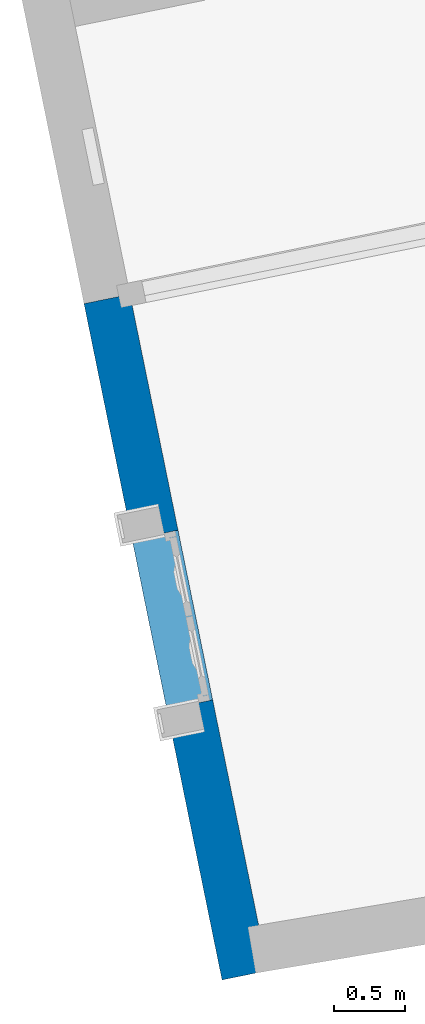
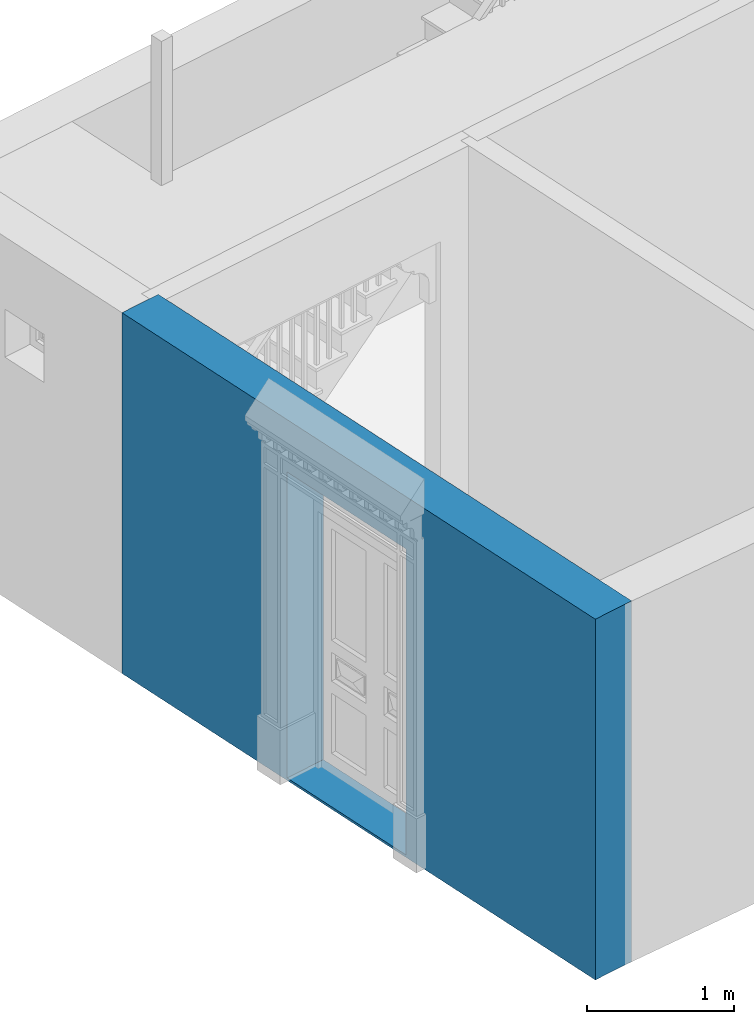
# One storey, part 2 of 11: 1 wall, 1 opening.
"""IFC4 building model written with IfcOpenShell, lengths in metres."""

import ifcopenshell
import ifcopenshell.guid

model = None  # the IFC model being written
_history = None  # IfcOwnerHistory: only IFC2X3 demands one
_inside = {}  # id of a spatial element -> (the spatial element, [elements in it])
_under = {}  # id of a project, library or spatial element -> (it, [spatial elements below it])
_declared = {}  # id of a project -> (the project, [libraries it declares])
_typed = {}  # id of a type object -> (the type object, [elements of that type])
_made_of = {}  # id of a material, layer set ... -> (it, [elements and type objects made of it])


def new_model(schema):
    """Start an empty IFC model of exactly this schema.

    Asked for "IFC4X3", IfcOpenShell would pick the latest addendum, in which some entities
    have other attributes; the version numbers below select the first issue.
    IFC2X3 requires an IfcOwnerHistory on every rooted entity: one is made here for all.
    """
    global model, _history
    if schema == "IFC4X3":
        model = ifcopenshell.file(schema_version=(4, 3, 0, 0))
    else:
        model = ifcopenshell.file(schema=schema)
    _inside.clear()
    _under.clear()
    _declared.clear()
    _typed.clear()
    _made_of.clear()
    _history = None
    if model.schema == "IFC2X3":
        org = make("IfcOrganization", Name="unknown")
        user = make(
            "IfcPersonAndOrganization",
            ThePerson=make("IfcPerson", FamilyName="unknown"),
            TheOrganization=org,
        )
        app = make(
            "IfcApplication",
            ApplicationDeveloper=org,
            Version="unknown",
            ApplicationFullName="unknown",
            ApplicationIdentifier="unknown",
        )
        _history = make(
            "IfcOwnerHistory",
            OwningUser=user,
            OwningApplication=app,
            ChangeAction="ADDED",
            CreationDate=0,
        )
    return model


def make(cls, **values):
    """One entity of the class cls with the attributes given. An attribute that is None is left unset."""
    return model.create_entity(
        cls, **{name: value for name, value in values.items() if value is not None}
    )


def rooted(cls, **values):
    """An entity with a GlobalId (a new one), such as an element, a storey or a relation."""
    return make(cls, GlobalId=ifcopenshell.guid.new(), OwnerHistory=_history, **values)


def si_unit(unit_type, name, prefix=None):
    """IfcSIUnit, for example si_unit("LENGTHUNIT", "METRE", prefix="MILLI")."""
    return make("IfcSIUnit", UnitType=unit_type, Prefix=prefix, Name=name)


def assignment(units):
    """IfcUnitAssignment: the units of a project."""
    return None if units is None else make("IfcUnitAssignment", Units=units)


def point(xyz):
    """IfcCartesianPoint."""
    return None if xyz is None else make("IfcCartesianPoint", Coordinates=xyz)


def direction(xyz):
    """IfcDirection."""
    return None if xyz is None else make("IfcDirection", DirectionRatios=xyz)


def frame(location, z_axis=None, x_axis=None):
    """IfcAxis2Placement3D, a coordinate frame: its origin and axes. An axis left out is left unset."""
    return make(
        "IfcAxis2Placement3D",
        Location=point(location),
        Axis=direction(z_axis),
        RefDirection=direction(x_axis),
    )


def origin_with_axes():
    """The frame at (0, 0, 0) with the z axis (0, 0, 1) and the x axis (1, 0, 0) written out."""
    return frame((0.0, 0.0, 0.0), z_axis=(0.0, 0.0, 1.0), x_axis=(1.0, 0.0, 0.0))


def place(relative_to, where):
    """IfcLocalPlacement: puts the frame where relative to a parent placement (None: the world)."""
    return make(
        "IfcLocalPlacement", PlacementRelTo=relative_to, RelativePlacement=where
    )


def context(
    kind, dimensions, precision=None, world=None, true_north=None, identifier=None
):
    """IfcGeometricRepresentationContext, for example the 3D "Model" context."""
    return make(
        "IfcGeometricRepresentationContext",
        ContextIdentifier=identifier,
        ContextType=kind,
        CoordinateSpaceDimension=dimensions,
        Precision=precision,
        WorldCoordinateSystem=world,
        TrueNorth=true_north,
    )


def subcontext(parent, identifier, kind, view, scale=None):
    """IfcGeometricRepresentationSubContext, for example "Body" below "Model"."""
    return make(
        "IfcGeometricRepresentationSubContext",
        ContextIdentifier=identifier,
        ContextType=kind,
        ParentContext=parent,
        TargetScale=scale,
        TargetView=view,
    )


def project(units=None, contexts=None):
    """IfcProject with its units and contexts."""
    return rooted(
        "IfcProject",
        Name="project",
        RepresentationContexts=contexts,
        UnitsInContext=assignment(units),
    )


def spatial(cls, under=None, at=None, **own):
    """A site, building, storey or space (cls), placed at a placement, below another one or the project."""
    s = rooted(cls, ObjectPlacement=at, **own)
    if under is not None:
        _under.setdefault(under.id(), (under, []))[1].append(s)
    return s


def polyline(points):
    """IfcPolyline through the points."""
    return make("IfcPolyline", Points=[point(p) for p in points])


def outline(outer, holes=None, kind="AREA"):
    """IfcArbitraryClosedProfileDef: a profile drawn as a closed curve; with holes, ...WithVoids."""
    if holes is None:
        return make("IfcArbitraryClosedProfileDef", ProfileType=kind, OuterCurve=outer)
    return make(
        "IfcArbitraryProfileDefWithVoids",
        ProfileType=kind,
        OuterCurve=outer,
        InnerCurves=holes,
    )


def extrude(swept, where, along, depth):
    """IfcExtrudedAreaSolid: the profile swept, set in the frame where, extruded along a direction by depth."""
    return make(
        "IfcExtrudedAreaSolid",
        SweptArea=swept,
        Position=where,
        ExtrudedDirection=direction(along),
        Depth=depth,
    )


def shape(context_of_items, identifier, shape_type, items):
    """IfcShapeRepresentation: the items that make up one representation, for example the "Body"."""
    return make(
        "IfcShapeRepresentation",
        ContextOfItems=context_of_items,
        RepresentationIdentifier=identifier,
        RepresentationType=shape_type,
        Items=items,
    )


def material(Name=None, Category=None):
    """IfcMaterial."""
    return make("IfcMaterial", Name=Name, Category=Category)


def layer(
    of_material, thickness, ventilated=None, Name=None, Category=None, Priority=None
):
    """IfcMaterialLayer: one layer of a wall or slab, of a material (None: an air gap)."""
    return make(
        "IfcMaterialLayer",
        Material=of_material,
        LayerThickness=thickness,
        IsVentilated=ventilated,
        Name=Name,
        Category=Category,
        Priority=Priority,
    )


def layer_set(layers, Name=None):
    """IfcMaterialLayerSet."""
    return make("IfcMaterialLayerSet", MaterialLayers=layers, LayerSetName=Name)


def layer_usage(for_layer_set, set_direction, sense, offset, extent=None):
    """IfcMaterialLayerSetUsage: how a layer set lies in its element."""
    return make(
        "IfcMaterialLayerSetUsage",
        ForLayerSet=for_layer_set,
        LayerSetDirection=set_direction,
        DirectionSense=sense,
        OffsetFromReferenceLine=offset,
        ReferenceExtent=extent,
    )


def made_of(thing, what):
    """Note that an element or type object is made of a material, layer set ...; save() writes the relation."""
    if what is not None:
        _made_of.setdefault(what.id(), (what, []))[1].append(thing)
    return thing


def type_object(cls, material=None, **own):
    """A type object (cls), such as IfcWallType, which elements share."""
    return made_of(rooted(cls, **own), material)


def element(
    cls,
    number,
    at=None,
    inside=None,
    cuts=None,
    type_object=None,
    material=None,
    context=None,
    identifier="Body",
    shape_type=None,
    held_by="IfcProductDefinitionShape",
    body=None,
    shapes=None,
    **own,
):
    """One element of the class cls, such as IfcWall. Its Tag is "e" and its number.

    at: its placement. inside: the storey or other place that contains it. cuts: it is an
    opening in that element (IfcRelVoidsElement). A single representation is given by context,
    identifier, shape_type and body (its items); several are given by shapes. held_by: the class
    of the entity that holds the representations. save() writes the other relations.
    """
    e = rooted(cls, Tag="e%d" % number, ObjectPlacement=at, **own)
    if body is not None:
        shapes = [shape(context, identifier, shape_type, body)]
    if shapes is not None:
        e.Representation = make(held_by, Representations=shapes)
    if inside is not None:
        _inside.setdefault(inside.id(), (inside, []))[1].append(e)
    if cuts is not None:
        rooted(
            "IfcRelVoidsElement", RelatingBuildingElement=cuts, RelatedOpeningElement=e
        )
    if type_object is not None:
        _typed.setdefault(type_object.id(), (type_object, []))[1].append(e)
    return made_of(e, material)


def aggregate(whole, parts):
    """IfcRelAggregates: a whole, such as a stair, and the parts it consists of."""
    return rooted("IfcRelAggregates", RelatingObject=whole, RelatedObjects=parts)


def save(model, path):
    """Write the relations noted so far, then the file.

    IfcRelAggregates (storeys below a building ...), IfcRelContainedInSpatialStructure (elements
    in a storey), IfcRelDefinesByType, IfcRelAssociatesMaterial and IfcRelDeclares: one each for
    every whole, place, type object, material and project.
    """
    for whole, parts in _under.values():
        aggregate(whole, parts)
    for where, things in _inside.values():
        rooted(
            "IfcRelContainedInSpatialStructure",
            RelatedElements=things,
            RelatingStructure=where,
        )
    for kind, things in _typed.values():
        rooted("IfcRelDefinesByType", RelatedObjects=things, RelatingType=kind)
    for what, things in _made_of.values():
        rooted("IfcRelAssociatesMaterial", RelatedObjects=things, RelatingMaterial=what)
    for by, libraries in _declared.values():
        rooted("IfcRelDeclares", RelatingContext=by, RelatedDefinitions=libraries)
    model.write(path)


model = new_model("IFC4")

# Units and contexts
model_context = context("Model", 3, world=origin_with_axes())
body_context = subcontext(model_context, "Body", "Model", "MODEL_VIEW")
ifc_project = project(units=[si_unit("PLANEANGLEUNIT", "RADIAN"), si_unit("MASSUNIT", "GRAM", prefix="KILO"), si_unit("FORCEUNIT", "NEWTON", prefix="KILO"), si_unit("LENGTHUNIT", "METRE"), si_unit("AREAUNIT", "SQUARE_METRE"), si_unit("VOLUMEUNIT", "CUBIC_METRE")], contexts=[model_context, model_context])

# Site, building, storey
site_placement = place(None, origin_with_axes())
site = spatial("IfcSite", under=ifc_project, at=site_placement, Name="Site plot-7", CompositionType="ELEMENT")
building_placement = place(None, origin_with_axes())
building = spatial("IfcBuilding", under=site, at=building_placement, Name="Building plot-7", CompositionType="ELEMENT")
storey_placement = place(None, origin_with_axes())
storey = spatial("IfcBuildingStorey", under=building, at=storey_placement, Name="plot-7 0", CompositionType="ELEMENT", Elevation=0.0)

# Wall, opening
ifc_material = material(Name="Masonry")
ifc_layer = layer(ifc_material, 0.33, ventilated=False)
ifc_layer_set = layer_set([ifc_layer], Name="exterior_0.08_0.25")
ifc_layer_usage = layer_usage(ifc_layer_set, "AXIS2", "POSITIVE", -0.25)
wall_type = type_object("IfcWallType", Name="exterior_0.08_0.25", PredefinedType="SOLIDWALL", material=ifc_layer_set)
wall_placement = place(storey_placement, frame((-11.9505129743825, 9.00814659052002, 0.0), z_axis=(0.0, 0.0, 1.0), x_axis=(0.199943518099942, -0.979807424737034, 0.0)))
wall = element("IfcWall", 1, at=wall_placement, inside=storey, type_object=wall_type, material=ifc_layer_usage, Name="exterior", context=body_context, shape_type="SweptSolid", body=[
    extrude(outline(polyline([(-2.89056306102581e-15, 0.0799999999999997), (9.27994915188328e-15, -0.25), (4.86375213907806, -0.25), (4.86375213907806, 0.0800000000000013), (-2.89056306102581e-15, 0.0799999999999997)])), origin_with_axes(), (0.0, 0.0, 1.0), 3.0),
])
opening_placement = place(wall_placement, frame((1.69687606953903, 0.0, 0.02)))
element("IfcOpeningElement", 2, at=opening_placement, cuts=wall, Name="My Opening", ObjectType="Opening", context=body_context, shape_type="SweptSolid", body=[
    extrude(outline(polyline([(0.0, -0.27), (1.22, -0.270000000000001), (1.22, 1.1), (6.66133814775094e-16, 1.1), (0.0, -0.27)])), origin_with_axes(), (0.0, 0.0, 1.0), 2.545),
])

save(model, "model.ifc")
